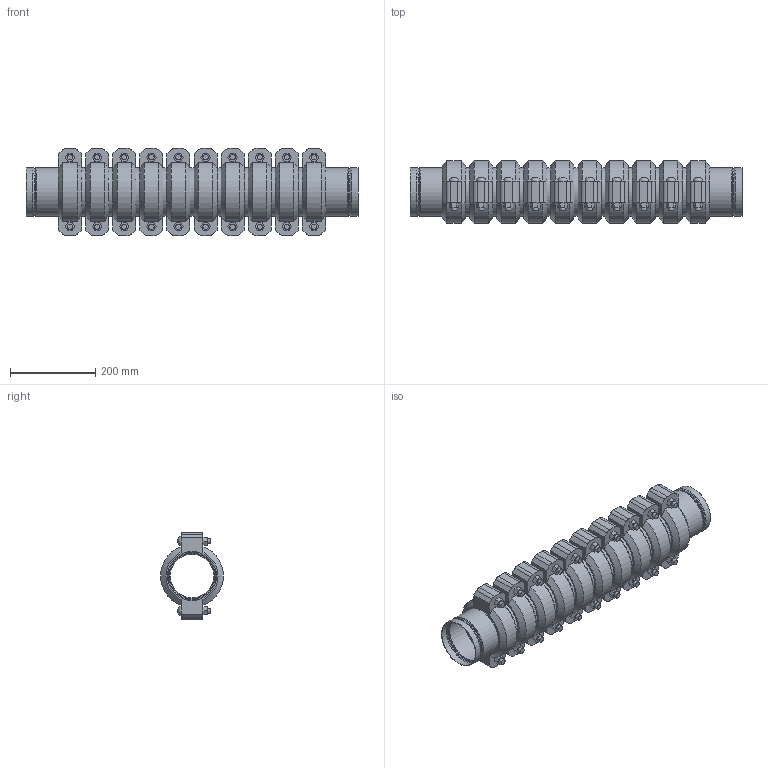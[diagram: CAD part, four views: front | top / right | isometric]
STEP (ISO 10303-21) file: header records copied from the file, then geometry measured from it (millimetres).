
FILE_DESCRIPTION(/* description */ ('VIC STRENGTHIN 100 EXPANSION JOINT 10 COUPLINGS NEUTRAL STYLE E155 (ST1)','CAx-IF Rec.Pracs.---Representation and Presentation of Product Manufacturing Information (PMI)---4.0---2014-10-13'),/* implementation_level */ '2;1');
FILE_NAME(/* name */ 'C:\Users\Vjadhav\AppData\Roaming\Autodesk\ApplicationPlugins\Victaulic.Temp\A165\Victaulic_SS-StrengThin 100_Expansion Joint_Neutral_10 Couplings_Style E155 (ST1)_10 Coup_Neut_4 (100).stp',/* time_stamp */ '2021-07-20T17:39:53+05:00',/* author */ ('kkamble'),/* organization */ ('Victaulic'),/* preprocessor_version */ 'ST-DEVELOPER v17.2',/* originating_system */ 'Autodesk Inventor 2019',/* authorisation */ '');
FILE_SCHEMA (('AP242_MANAGED_MODEL_BASED_3D_ENGINEERING_MIM_LF { 1 0 10303 442 1 1 4 }'));
Length unit declared in the file: inch
Products named in the file (4): E155-04.0; E494G-04.0; Nipple-04.0; 075-04.0
Assembly tree (21 placements, depth 2):
  E155-04.0
    E494G-04.0  x2
    Nipple-04.0  x9
    075-04.0  x10
Bounding box: 778.26 x 147.32 x 203.96 mm (x, y, z)
Volume: 5934519 mm3; surface area: 1364311.4 mm2
Topology: 21 solids, 41 shells, 746 faces, 1822 edges, 1282 vertices
Faces by surface type: plane 426, cylinder 224, cone 44, torus 32, bspline 20
Full cylindrical faces by diameter (mm): 12.7 x40, 14.605 x20, 102.26 x9, 105.639 x2, 106.883 x2, 107.95 x10, 108.839 x2, 110.084 x20, 111.1 x6, 114.3 x53
Entity records: 3830 total; most frequent: DIRECTION 685, CARTESIAN_POINT 667, ORIENTED_EDGE 548, AXIS2_PLACEMENT_3D 293, EDGE_CURVE 274, VERTEX_POINT 197, CIRCLE 167, EDGE_LOOP 129
